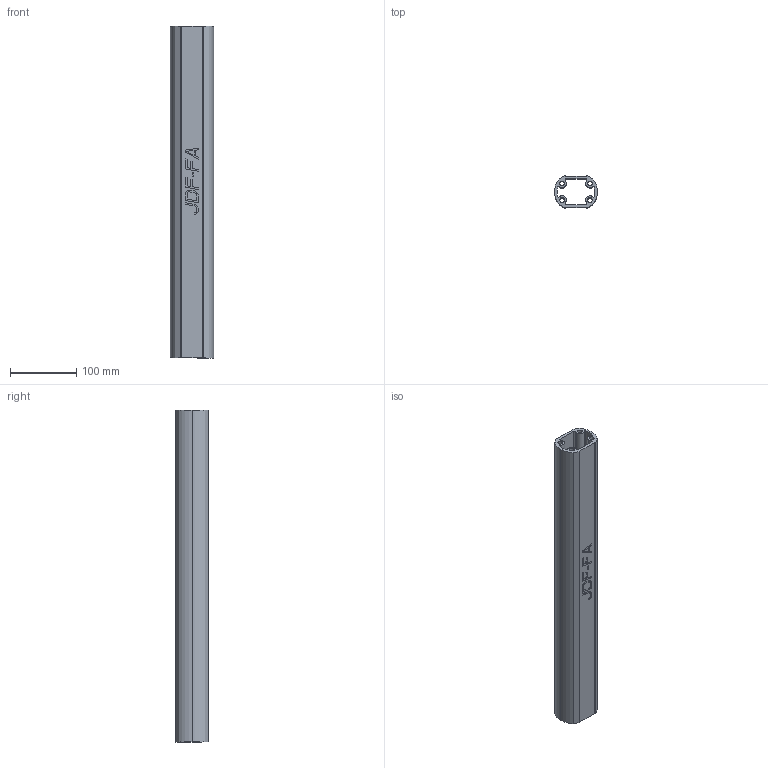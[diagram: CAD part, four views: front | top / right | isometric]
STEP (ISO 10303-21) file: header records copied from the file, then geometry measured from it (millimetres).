
FILE_DESCRIPTION((''),'2;1');
FILE_NAME('00','2024-03-06T15:42:06',('Administrator'),(''),'CREO PARAMETRIC BY PTC INC, 2019010','CREO PARAMETRIC BY PTC INC, 2019010','');
FILE_SCHEMA(('CONFIG_CONTROL_DESIGN','SHAPE_APPEARANCE_LAYERS_GROUPS'));
Length unit declared in the file: millimetre
Products named in the file (1): 00
Bounding box: 65 x 48.51 x 500 mm (x, y, z)
Volume: 504953.4 mm3; surface area: 237900.5 mm2
Topology: 1 solids, 1 shells, 145 faces, 405 edges, 270 vertices
Faces by surface type: plane 103, cylinder 42
Entity records: 5963 total; most frequent: COLOUR_RGB 1251, CARTESIAN_POINT 836, ORIENTED_EDGE 810, DIRECTION 771, EDGE_CURVE 405, VECTOR 321, LINE 321, VERTEX_POINT 270
